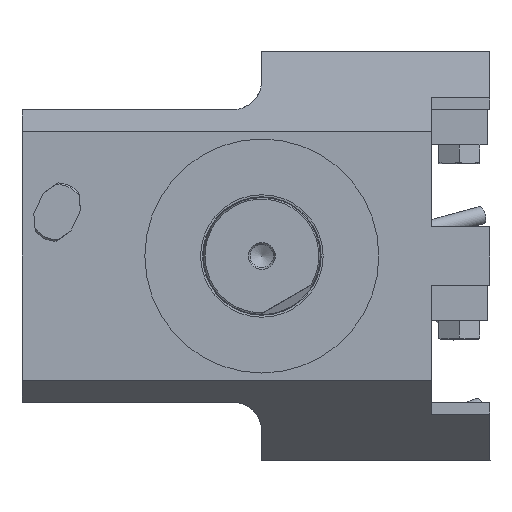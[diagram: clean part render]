
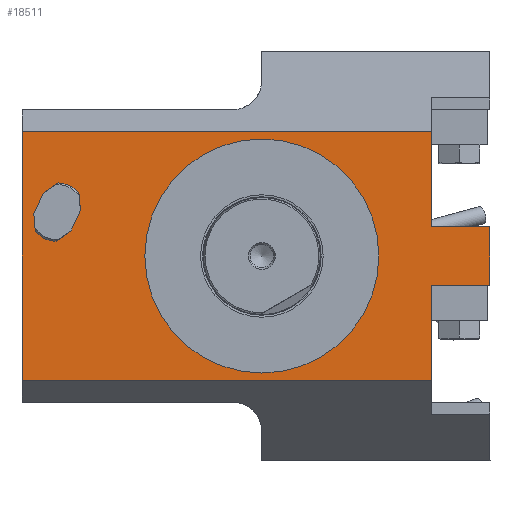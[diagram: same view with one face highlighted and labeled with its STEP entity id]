
A CAD part, left-side view. The second image highlights one B-rep face of the part: STEP entity #18511.
In plain terms, the highlighted planar face has unit normal (-1, 0, 0).
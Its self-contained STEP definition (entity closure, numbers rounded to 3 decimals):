
#5779=VECTOR('',#9528,1.);
#5792=VECTOR('',#9551,1.);
#5810=VECTOR('',#9587,1.);
#5823=VECTOR('',#9618,1.);
#5828=VECTOR('',#9625,1.);
#5831=VECTOR('',#9630,1.);
#5833=VECTOR('',#9634,1.);
#5834=VECTOR('',#9635,1.);
#5835=VECTOR('',#9638,1.);
#5836=VECTOR('',#9641,1.);
#5837=VECTOR('',#9642,1.);
#5838=VECTOR('',#9645,1.);
#5839=VECTOR('',#9646,1.);
#5840=VECTOR('',#9647,1.);
#5841=VECTOR('',#9650,1.);
#5842=VECTOR('',#9651,1.);
#6028=LINE('',#11470,#5779);
#6041=LINE('',#11497,#5792);
#6059=LINE('',#11602,#5810);
#6072=LINE('',#11630,#5823);
#6077=LINE('',#11638,#5828);
#6080=LINE('',#11644,#5831);
#6082=LINE('',#11647,#5833);
#6083=LINE('',#11648,#5834);
#6084=LINE('',#11653,#5835);
#6085=LINE('',#11657,#5836);
#6086=LINE('',#11659,#5837);
#6087=LINE('',#11662,#5838);
#6088=LINE('',#11665,#5839);
#6089=LINE('',#11667,#5840);
#6090=LINE('',#11671,#5841);
#6091=LINE('',#11673,#5842);
#6386=PLANE('',#18012);
#6765=ORIENTED_EDGE('',*,*,#8285,.F.);
#6766=ORIENTED_EDGE('',*,*,#8299,.T.);
#6767=ORIENTED_EDGE('',*,*,#8304,.T.);
#6768=ORIENTED_EDGE('',*,*,#8307,.T.);
#6769=ORIENTED_EDGE('',*,*,#8309,.T.);
#6770=ORIENTED_EDGE('',*,*,#8247,.T.);
#6771=ORIENTED_EDGE('',*,*,#8261,.F.);
#6772=ORIENTED_EDGE('',*,*,#8310,.T.);
#6773=ORIENTED_EDGE('',*,*,#8311,.T.);
#6774=ORIENTED_EDGE('',*,*,#8312,.F.);
#6775=ORIENTED_EDGE('',*,*,#8313,.F.);
#6776=ORIENTED_EDGE('',*,*,#8314,.F.);
#6777=ORIENTED_EDGE('',*,*,#8315,.F.);
#6778=ORIENTED_EDGE('',*,*,#8316,.T.);
#6779=ORIENTED_EDGE('',*,*,#8317,.F.);
#6780=ORIENTED_EDGE('',*,*,#8318,.F.);
#6781=ORIENTED_EDGE('',*,*,#8319,.F.);
#6782=ORIENTED_EDGE('',*,*,#8320,.T.);
#6783=ORIENTED_EDGE('',*,*,#8321,.F.);
#6784=ORIENTED_EDGE('',*,*,#8322,.F.);
#6785=ORIENTED_EDGE('',*,*,#8323,.F.);
#6786=ORIENTED_EDGE('',*,*,#8324,.F.);
#7688=CIRCLE('',#18013,40.);
#7689=CIRCLE('',#18014,7.153);
#7690=CIRCLE('',#18015,10.);
#7691=CIRCLE('',#18016,10.);
#7692=CIRCLE('',#18017,7.153);
#7693=CIRCLE('',#18018,6.068);
#7844=VERTEX_POINT('',#11467);
#7845=VERTEX_POINT('',#11469);
#7854=VERTEX_POINT('',#11495);
#7871=VERTEX_POINT('',#11599);
#7872=VERTEX_POINT('',#11601);
#7878=VERTEX_POINT('',#11628);
#7880=VERTEX_POINT('',#11636);
#7882=VERTEX_POINT('',#11643);
#7883=VERTEX_POINT('',#11649);
#7884=VERTEX_POINT('',#11651);
#7885=VERTEX_POINT('',#11652);
#7886=VERTEX_POINT('',#11654);
#7887=VERTEX_POINT('',#11656);
#7888=VERTEX_POINT('',#11658);
#7889=VERTEX_POINT('',#11660);
#7890=VERTEX_POINT('',#11663);
#7891=VERTEX_POINT('',#11664);
#7892=VERTEX_POINT('',#11666);
#7893=VERTEX_POINT('',#11668);
#7894=VERTEX_POINT('',#11670);
#7895=VERTEX_POINT('',#11672);
#7896=VERTEX_POINT('',#11675);
#8247=EDGE_CURVE('',#7845,#7844,#6028,.T.);
#8261=EDGE_CURVE('',#7854,#7844,#6041,.T.);
#8285=EDGE_CURVE('',#7871,#7872,#6059,.T.);
#8299=EDGE_CURVE('',#7871,#7878,#6072,.T.);
#8304=EDGE_CURVE('',#7878,#7880,#6077,.T.);
#8307=EDGE_CURVE('',#7880,#7882,#6080,.T.);
#8309=EDGE_CURVE('',#7882,#7845,#6082,.T.);
#8310=EDGE_CURVE('',#7854,#7872,#6083,.T.);
#8311=EDGE_CURVE('',#7883,#7883,#7688,.T.);
#8312=EDGE_CURVE('',#7884,#7885,#6084,.T.);
#8313=EDGE_CURVE('',#7886,#7884,#7689,.T.);
#8314=EDGE_CURVE('',#7887,#7886,#6085,.T.);
#8315=EDGE_CURVE('',#7888,#7887,#6086,.T.);
#8316=EDGE_CURVE('',#7888,#7889,#7690,.T.);
#8317=EDGE_CURVE('',#7885,#7889,#6087,.T.);
#8318=EDGE_CURVE('',#7890,#7891,#6088,.T.);
#8319=EDGE_CURVE('',#7892,#7890,#6089,.T.);
#8320=EDGE_CURVE('',#7892,#7893,#7691,.T.);
#8321=EDGE_CURVE('',#7894,#7893,#6090,.T.);
#8322=EDGE_CURVE('',#7895,#7894,#6091,.T.);
#8323=EDGE_CURVE('',#7891,#7895,#7692,.T.);
#8324=EDGE_CURVE('',#7896,#7896,#7693,.T.);
#8786=EDGE_LOOP('',(#6765,#6766,#6767,#6768,#6769,#6770,#6771,#6772));
#8787=EDGE_LOOP('',(#6773));
#8788=EDGE_LOOP('',(#6774,#6775,#6776,#6777,#6778,#6779));
#8789=EDGE_LOOP('',(#6780,#6781,#6782,#6783,#6784,#6785));
#8790=EDGE_LOOP('',(#6786));
#9124=FACE_BOUND('',#8786,.T.);
#9125=FACE_BOUND('',#8787,.T.);
#9126=FACE_BOUND('',#8788,.T.);
#9127=FACE_BOUND('',#8789,.T.);
#9128=FACE_BOUND('',#8790,.T.);
#9528=DIRECTION('',(0.,0.,32.5));
#9551=DIRECTION('',(0.,-140.,0.));
#9587=DIRECTION('',(0.,140.,0.));
#9618=DIRECTION('',(0.,0.,32.5));
#9625=DIRECTION('',(0.,-20.,0.));
#9630=DIRECTION('',(0.,0.,20.));
#9632=DIRECTION('',(-1.,0.,0.));
#9633=DIRECTION('',(0.,1.,0.));
#9634=DIRECTION('',(0.,20.,0.));
#9635=DIRECTION('',(0.,0.,-85.));
#9636=DIRECTION('',(1.,0.,0.));
#9637=DIRECTION('',(0.,40.,0.));
#9638=DIRECTION('',(0.,1.015,-2.177));
#9639=DIRECTION('',(1.,0.,0.));
#9640=DIRECTION('',(0.,3.023,-6.483));
#9641=DIRECTION('',(0.,-1.015,2.177));
#9642=DIRECTION('',(0.,-5.033,3.524));
#9643=DIRECTION('',(1.,0.,0.));
#9644=DIRECTION('',(0.,0.326,-9.995));
#9645=DIRECTION('',(0.,-0.535,-6.12));
#9646=DIRECTION('',(0.,1.015,-2.177));
#9647=DIRECTION('',(0.,5.033,-3.524));
#9648=DIRECTION('',(1.,0.,0.));
#9649=DIRECTION('',(0.,-0.326,9.995));
#9650=DIRECTION('',(0.,0.535,6.12));
#9651=DIRECTION('',(0.,-1.015,2.177));
#9652=DIRECTION('',(1.,0.,0.));
#9653=DIRECTION('',(0.,3.023,-6.483));
#9654=DIRECTION('',(-1.,0.,0.));
#9655=DIRECTION('',(0.,-4.649,3.901));
#11467=CARTESIAN_POINT('',(0.,-58.,42.5));
#11469=CARTESIAN_POINT('',(0.,-58.,10.));
#11470=CARTESIAN_POINT('',(0.,-58.,10.));
#11495=CARTESIAN_POINT('',(0.,82.,42.5));
#11497=CARTESIAN_POINT('',(0.,82.,42.5));
#11599=CARTESIAN_POINT('',(0.,-58.,-42.5));
#11601=CARTESIAN_POINT('',(0.,82.,-42.5));
#11602=CARTESIAN_POINT('',(0.,-58.,-42.5));
#11628=CARTESIAN_POINT('',(0.,-58.,-10.));
#11630=CARTESIAN_POINT('',(0.,-58.,-42.5));
#11636=CARTESIAN_POINT('',(0.,-78.,-10.));
#11638=CARTESIAN_POINT('',(0.,-58.,-10.));
#11643=CARTESIAN_POINT('',(0.,-78.,10.));
#11644=CARTESIAN_POINT('',(0.,-78.,-10.));
#11646=CARTESIAN_POINT('',(0.,-78.,-50.));
#11647=CARTESIAN_POINT('',(0.,-78.,10.));
#11648=CARTESIAN_POINT('',(0.,82.,42.5));
#11649=CARTESIAN_POINT('',(0.,40.,0.));
#11650=CARTESIAN_POINT('',(0.,0.,0.));
#11651=CARTESIAN_POINT('',(0.,76.967,16.622));
#11652=CARTESIAN_POINT('',(0.,77.982,14.446));
#11653=CARTESIAN_POINT('',(0.,76.967,16.622));
#11654=CARTESIAN_POINT('',(0.,64.279,10.706));
#11655=CARTESIAN_POINT('',(0.,70.,15.));
#11656=CARTESIAN_POINT('',(0.,65.294,8.529));
#11657=CARTESIAN_POINT('',(0.,65.294,8.529));
#11658=CARTESIAN_POINT('',(0.,70.326,5.005));
#11659=CARTESIAN_POINT('',(0.,70.326,5.005));
#11660=CARTESIAN_POINT('',(0.,77.447,8.326));
#11661=CARTESIAN_POINT('',(0.,70.,15.));
#11662=CARTESIAN_POINT('',(0.,77.982,14.446));
#11663=CARTESIAN_POINT('',(0.,74.706,21.471));
#11664=CARTESIAN_POINT('',(0.,75.721,19.294));
#11665=CARTESIAN_POINT('',(0.,74.706,21.471));
#11666=CARTESIAN_POINT('',(0.,69.674,24.995));
#11667=CARTESIAN_POINT('',(0.,69.674,24.995));
#11668=CARTESIAN_POINT('',(0.,62.553,21.674));
#11669=CARTESIAN_POINT('',(0.,70.,15.));
#11670=CARTESIAN_POINT('',(0.,62.018,15.554));
#11671=CARTESIAN_POINT('',(0.,62.018,15.554));
#11672=CARTESIAN_POINT('',(0.,63.033,13.378));
#11673=CARTESIAN_POINT('',(0.,63.033,13.378));
#11674=CARTESIAN_POINT('',(0.,70.,15.));
#11675=CARTESIAN_POINT('',(0.,65.351,18.901));
#11676=CARTESIAN_POINT('',(0.,70.,15.));
#18012=AXIS2_PLACEMENT_3D('',#11646,#9632,#9633);
#18013=AXIS2_PLACEMENT_3D('',#11650,#9636,#9637);
#18014=AXIS2_PLACEMENT_3D('',#11655,#9639,#9640);
#18015=AXIS2_PLACEMENT_3D('',#11661,#9643,#9644);
#18016=AXIS2_PLACEMENT_3D('',#11669,#9648,#9649);
#18017=AXIS2_PLACEMENT_3D('',#11674,#9652,#9653);
#18018=AXIS2_PLACEMENT_3D('',#11676,#9654,#9655);
#18511=ADVANCED_FACE('',(#9124,#9125,#9126,#9127,#9128),#6386,.T.);
